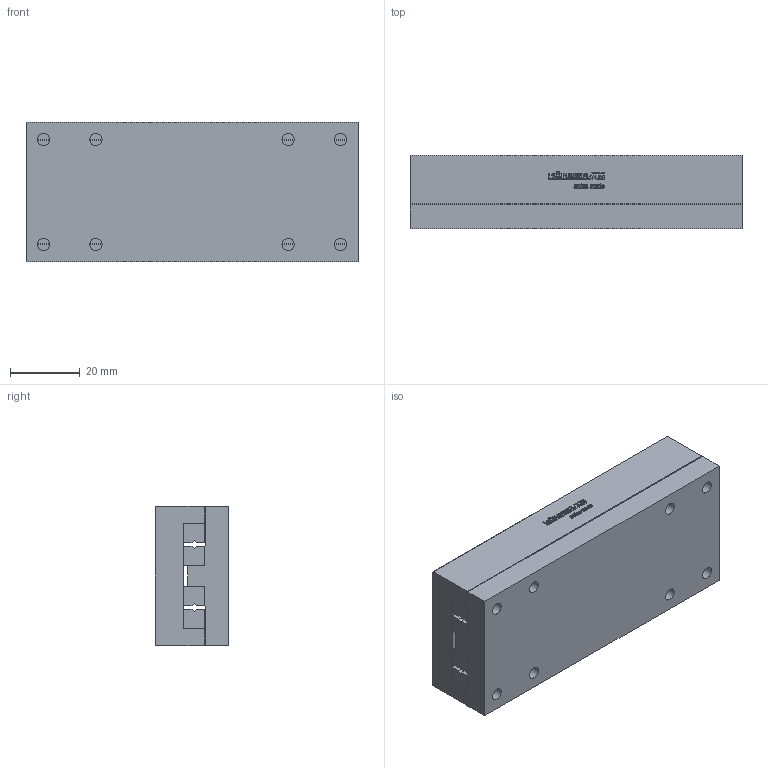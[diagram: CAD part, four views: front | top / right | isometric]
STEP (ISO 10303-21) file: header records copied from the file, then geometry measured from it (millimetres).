
FILE_DESCRIPTION(/* description */ ('STEP AP214'),/* implementation_level */ '2;1');
FILE_NAME(/* name */ 'NK 2-95-B(0)',/* time_stamp */ '2025-04-22T17:48:04+02:00',/* author */ ('License CC BY-ND 4.0'),/* organization */ ('CADENAS'),/* preprocessor_version */ 'ST-DEVELOPER v19.3',/* originating_system */ 'PARTsolutions',/* authorisation */ ' ');
FILE_SCHEMA (('AUTOMOTIVE_DESIGN {1 0 10303 214 3 1 1}'));
Length unit declared in the file: millimetre
Products named in the file (3): NK 2-95-B(0); NK 2-95-B_1; NK 2-95-B_2
Assembly tree (2 placements, depth 2):
  NK 2-95-B(0)
    NK 2-95-B_1
    NK 2-95-B_2
Bounding box: 95 x 21 x 40 mm (x, y, z)
Volume: 75896.3 mm3; surface area: 28859.8 mm2
Topology: 2 solids, 2 shells, 603 faces, 1664 edges, 1100 vertices
Faces by surface type: cylinder 318, plane 265, cone 20
Full cylindrical faces by diameter (mm): 2.459 x10, 3.5 x8, 6 x8
Entity records: 19327 total; most frequent: DIRECTION 3486, CARTESIAN_POINT 3324, ORIENTED_EDGE 3236, EDGE_CURVE 1618, AXIS2_PLACEMENT_3D 1262, VERTEX_POINT 1100, LINE 962, VECTOR 962
